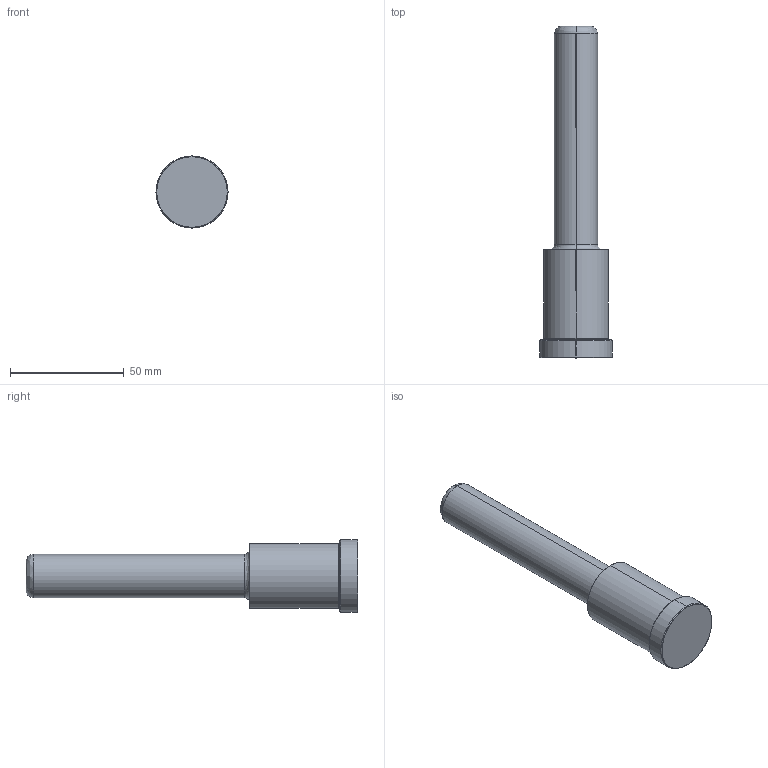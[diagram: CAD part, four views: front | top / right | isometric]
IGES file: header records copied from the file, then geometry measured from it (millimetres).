
Start section: SolidWorks IGES file using analytic representation for surfaces
Global section: file name: C:\Users\365admin\AppData\Local\Temp\InFlowXlateWorking\SLP75X187L575.igs; native system: SolidWorks 2018; preprocessor: SolidWorks 2018; author: 365admin; date: 200823.202359; units: inch
Bounding box: 31.75 x 146.05 x 31.75 mm (x, y, z)
Surface area: 11742.7 mm2 (no closed solid volume)
Topology: 0 solids, 0 shells, 23 faces, 520 edges, 520 vertices
Faces by surface type: bspline 13, revolution 10
